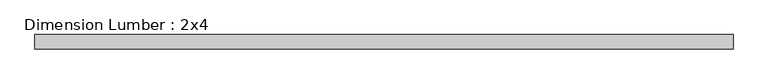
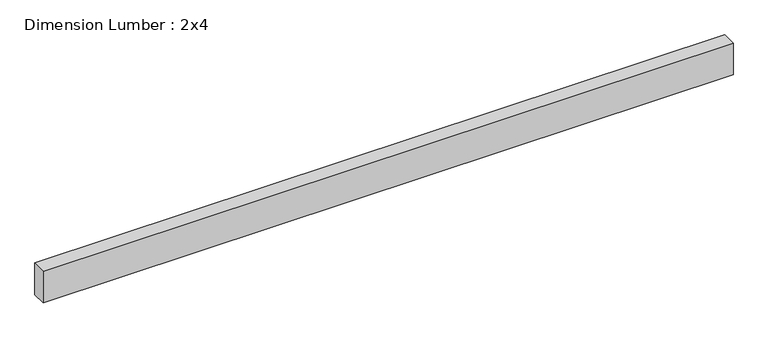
"""IFC4 building model written with IfcOpenShell, lengths in millimetres: beam geometry, Dimension Lumber : 2x4."""

from ifc_helpers import new_model, si_unit, frame, origin, place, context, project, spatial, polyline, outline, extrude, source, transform, mapped, element, save


def dimension_lumber_2x4_7727a5a3(model_context):
    return source(origin(), model_context, "Body", "SweptSolid", [
        extrude(outline(polyline([(914.4, 19.05), (914.4, -19.05), (-914.4, -19.05), (-914.4, 19.05), (914.4, 19.05)])), frame((0.0, 0.0, -44.45), z_axis=(0.0, 0.0, 1.0), x_axis=(1.0, 0.0, 0.0)), (0.0, 0.0, 1.0), 88.9),
    ])


if __name__ == "__main__":
    model = new_model("IFC4")
    model_context = context("Model", 3, world=origin())
    ifc_project = project(units=[si_unit("LENGTHUNIT", "METRE", prefix="MILLI")], contexts=[model_context])
    site = spatial("IfcSite", under=ifc_project)
    building = spatial("IfcBuilding", under=site)
    placement = place(None, origin())
    dimension_lumber_2x4_shape = dimension_lumber_2x4_7727a5a3(model_context)
    element("IfcBeam", 1, ObjectType="Dimension Lumber : 2x4", at=placement, inside=building, context=model_context, shape_type="MappedRepresentation", body=[
        mapped(dimension_lumber_2x4_shape, transform((0.0, 0.0, 0.0), x_axis=(1.0, 0.0, 0.0), y_axis=(0.0, 1.0, 0.0), z_axis=(0.0, 0.0, 1.0))),
    ])
    save(model, "model.ifc")
